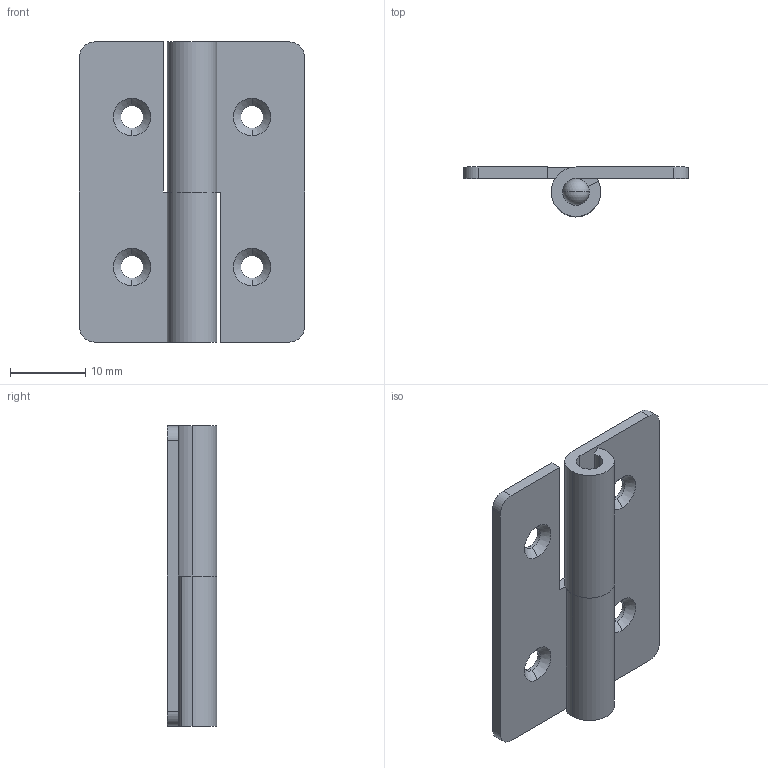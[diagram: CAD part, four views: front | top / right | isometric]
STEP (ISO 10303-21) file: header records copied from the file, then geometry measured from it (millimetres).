
FILE_DESCRIPTION (( 'STEP AP214' ), '1' );
FILE_NAME ('DEH-33S-RV-R.STEP', '2020-02-18T08:02:51', ( '' ), ( '' ), 'SwSTEP 2.0', 'SolidWorks 2019', '' );
FILE_SCHEMA (( 'AUTOMOTIVE_DESIGN' ));
Length unit declared in the file: millimetre
Products named in the file (3): DEH-33S-RVHinge-R; DEH-33S-RVPin-R; DEH-33S-RV-R
Assembly tree (2 placements, depth 2):
  DEH-33S-RV-R
    DEH-33S-RVPin-R
    DEH-33S-RVHinge-R
Bounding box: 30 x 6.6 x 40 mm (x, y, z)
Volume: 2660.3 mm3; surface area: 3961.1 mm2
Topology: 3 solids, 3 shells, 56 faces, 142 edges, 91 vertices
Faces by surface type: cylinder 28, plane 18, cone 8, sphere 2
Entity records: 1811 total; most frequent: DIRECTION 326, CARTESIAN_POINT 288, ORIENTED_EDGE 276, EDGE_CURVE 138, AXIS2_PLACEMENT_3D 127, VERTEX_POINT 89, VECTOR 72, LINE 72
